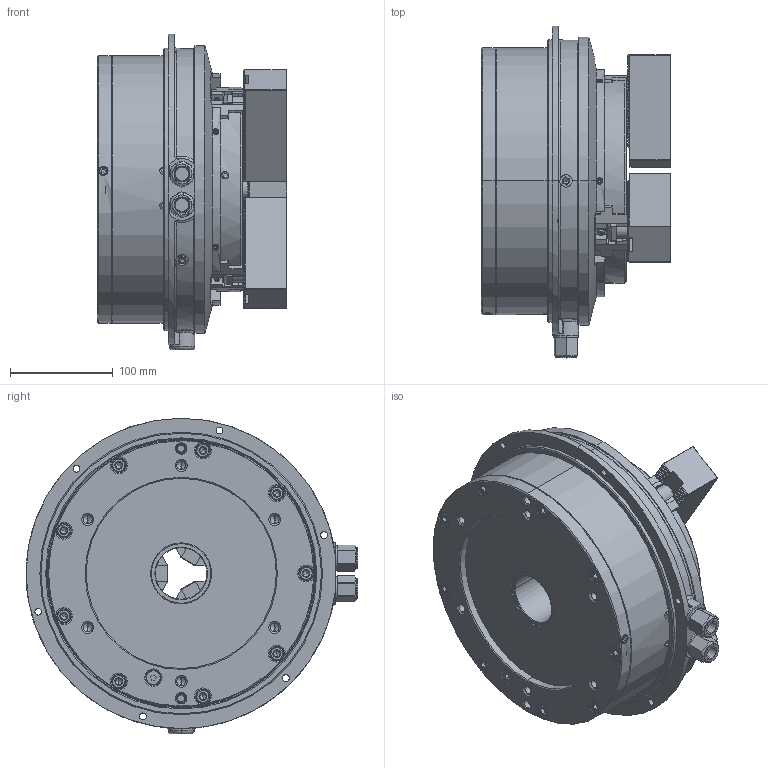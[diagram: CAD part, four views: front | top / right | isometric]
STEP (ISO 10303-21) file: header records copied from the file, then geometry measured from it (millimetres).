
FILE_DESCRIPTION (( 'STEP AP214' ), '1' );
FILE_NAME ('DEV-UVE200K-UC.STEP', '2024-10-02T23:19:41', ( '' ), ( '' ), 'SwSTEP 2.0', 'SolidWorks 2022', '' );
FILE_SCHEMA (( 'AUTOMOTIVE_DESIGN' ));
Length unit declared in the file: millimetre
Products named in the file (6): Copy of P31633^DEV-UVE200K-クミタテ; DEV-UVE200K-UC; Copy of 0030112030^DEV-UVE200K-クミタテ; Copy of 0693000003^DEV-UVE200K-クミタテ; Part1^DEV-UVE200K-クミタテ; Copy of 61P401335^DEV-UVE200K-クミタテ
Assembly tree (18 placements, depth 2):
  DEV-UVE200K-UC
    Copy of P31633^DEV-UVE200K-クミタテ  x3
    Copy of 61P401335^DEV-UVE200K-クミタテ  x6
    Copy of 0030112030^DEV-UVE200K-クミタテ  x6
    Copy of 0693000003^DEV-UVE200K-クミタテ  x2
    Part1^DEV-UVE200K-クミタテ
Bounding box: 184.45 x 323 x 307 mm (x, y, z)
Volume: 7188966.9 mm3; surface area: 491788.7 mm2
Topology: 18 solids, 47 shells, 5008 faces, 13874 edges, 9064 vertices
Faces by surface type: plane 3143, cylinder 981, cone 548, bspline 257, torus 59, sphere 20
Entity records: 138443 total; most frequent: CARTESIAN_POINT 43190, ORIENTED_EDGE 21502, DIRECTION 17377, EDGE_CURVE 10751, VERTEX_POINT 7049, VECTOR 7009, LINE 7009, AXIS2_PLACEMENT_3D 5184
